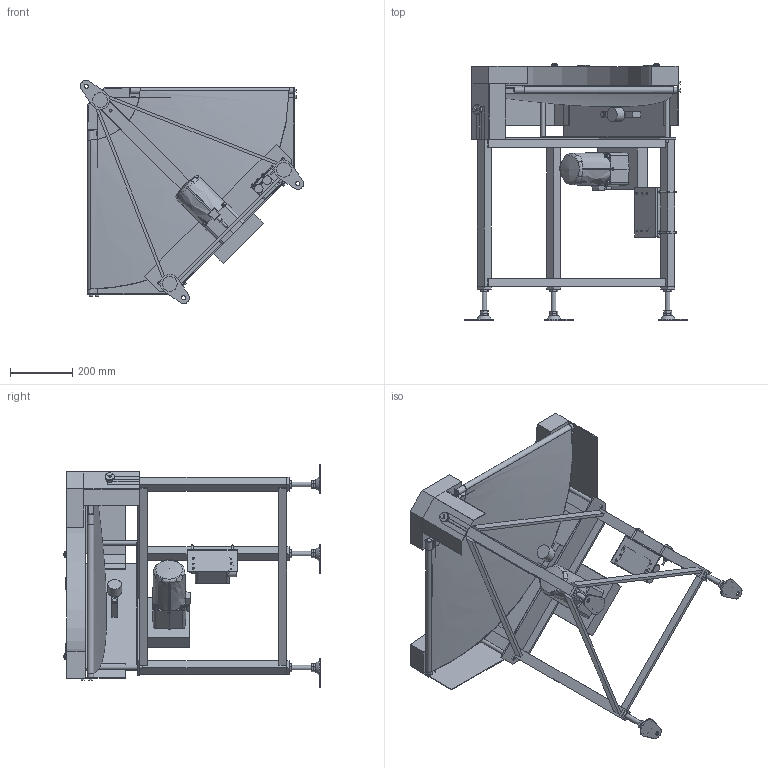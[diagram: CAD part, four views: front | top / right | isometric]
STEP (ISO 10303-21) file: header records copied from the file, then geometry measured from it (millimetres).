
FILE_DESCRIPTION( (''), '2;1');
FILE_NAME ('WEB-FFBC3-UD-309-400-90°-L-K-60.stp','2025-10-17T10:01:13',(''),(''),'spGate 20.6.2 (****-****-****-****)','','');
FILE_SCHEMA (('AUTOMOTIVE_DESIGN'));
Length unit declared in the file: millimetre
Products named in the file (64): WEB-FFBC3-UD-309-400-90_-L-K-60; TEMP_X_T-prt0; TEMP_X_T-prt1; TEMP_X_T-prt2; TEMP_X_T-prt3; TEMP_X_T-prt4; TEMP_X_T-prt5; TEMP_X_T-prt6; TEMP_X_T-prt7; TEMP_X_T-prt8; TEMP_X_T-prt9; TEMP_X_T-prt10; TEMP_X_T-prt11; TEMP_X_T-prt12; TEMP_X_T-prt13; TEMP_X_T-prt14; TEMP_X_T-prt15; TEMP_X_T-prt16; TEMP_X_T-prt17; TEMP_X_T-prt18; TEMP_X_T-prt19; TEMP_X_T-prt20; TEMP_X_T-prt21; TEMP_X_T-prt22; TEMP_X_T-prt23; TEMP_X_T-prt24; TEMP_X_T-prt25; TEMP_X_T-prt26; TEMP_X_T-prt27; TEMP_X_T-prt28; TEMP_X_T-prt29; TEMP_X_T-prt30; TEMP_X_T-prt31; TEMP_X_T-prt32; TEMP_X_T-prt33; TEMP_X_T-prt34; TEMP_X_T-prt35; TEMP_X_T-prt36; TEMP_X_T-prt37; TEMP_X_T-prt38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
Assembly tree (63 placements, depth 2):
  WEB-FFBC3-UD-309-400-90_-L-K-60
    TEMP_X_T-prt0
    TEMP_X_T-prt1
    TEMP_X_T-prt2
    TEMP_X_T-prt3
    TEMP_X_T-prt4
    TEMP_X_T-prt5
    TEMP_X_T-prt6
    TEMP_X_T-prt7
    TEMP_X_T-prt8
    TEMP_X_T-prt9
    TEMP_X_T-prt10
    TEMP_X_T-prt11
    TEMP_X_T-prt12
    TEMP_X_T-prt13
    TEMP_X_T-prt14
    TEMP_X_T-prt15
    TEMP_X_T-prt16
    TEMP_X_T-prt17
    TEMP_X_T-prt18
    TEMP_X_T-prt19
    TEMP_X_T-prt20
    TEMP_X_T-prt21
    TEMP_X_T-prt22
    TEMP_X_T-prt23
    TEMP_X_T-prt24
    TEMP_X_T-prt25
    TEMP_X_T-prt26
    TEMP_X_T-prt27
    TEMP_X_T-prt28
    TEMP_X_T-prt29
    TEMP_X_T-prt30
    TEMP_X_T-prt31
    TEMP_X_T-prt32
    TEMP_X_T-prt33
    TEMP_X_T-prt34
    TEMP_X_T-prt35
    TEMP_X_T-prt36
    TEMP_X_T-prt37
    TEMP_X_T-prt38
    TEMP_X_T-prt39
    TEMP_X_T-prt40
    TEMP_X_T-prt41
    TEMP_X_T-prt42
    TEMP_X_T-prt43
    TEMP_X_T-prt44
    TEMP_X_T-prt45
    TEMP_X_T-prt46
    TEMP_X_T-prt47
    TEMP_X_T-prt48
    TEMP_X_T-prt49
    TEMP_X_T-prt50
    TEMP_X_T-prt51
    TEMP_X_T-prt52
    TEMP_X_T-prt53
    TEMP_X_T-prt54
    TEMP_X_T-prt55
    TEMP_X_T-prt56
    TEMP_X_T-prt57
    TEMP_X_T-prt58
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Bounding box: 719.17 x 827.92 x 719.17 mm (x, y, z)
Volume: 18124211.9 mm3; surface area: 3917189.1 mm2
Topology: 63 solids, 63 shells, 1037 faces, 2539 edges, 1713 vertices
Faces by surface type: plane 734, cylinder 195, bspline 105, sphere 3
Full cylindrical faces by diameter (mm): 4.2 x2, 5 x16, 5.3 x2, 6 x10, 6.9 x4, 7 x5, 7.8 x1, 8 x11, 8.4 x4, 8.5 x4, 9 x2, 10 x2, 12.5 x8, 13 x11, 13.8 x3, 15 x4, 16 x9, 17 x9, 18 x4, 19 x2, 20 x3, 25 x1, 27.8 x3, 30 x1, 42 x1, 45 x1, 94 x1
Entity records: 60039 total; most frequent: CARTESIAN_POINT 13326, ORIENTED_EDGE 5060, DIRECTION 5019, COLOUR_RGB 3630, PRESENTATION_STYLE_ASSIGNMENT 3630, STYLED_ITEM 3630, EDGE_CURVE 2530, DRAUGHTING_PRE_DEFINED_CURVE_FONT 2530
